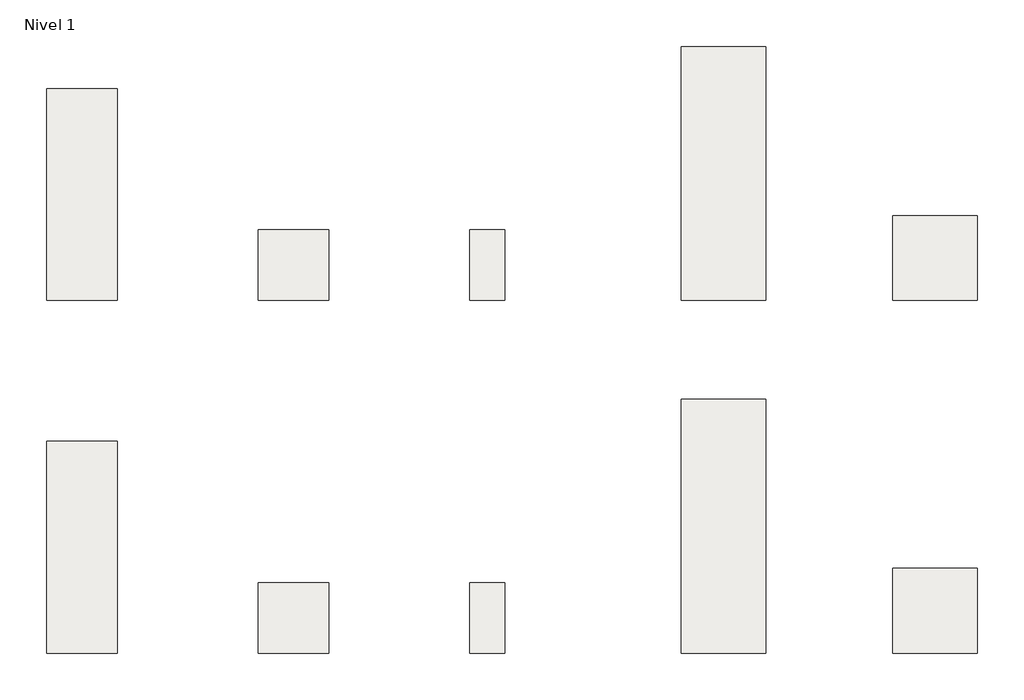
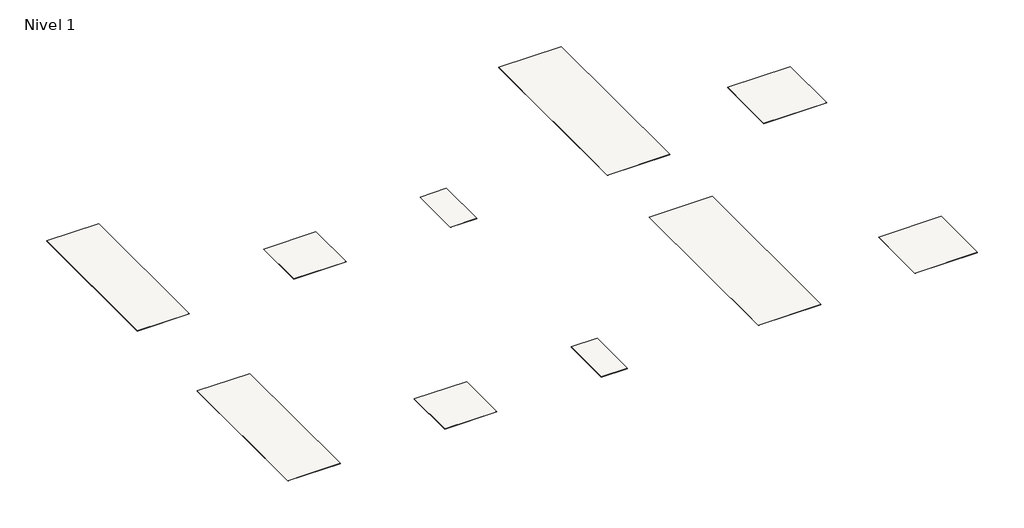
# One storey: 10 slabs.
"""IFC4 building model written with IfcOpenShell, lengths in millimetres."""

import ifcopenshell
import ifcopenshell.guid

model = None  # the IFC model being written
_history = None  # IfcOwnerHistory: only IFC2X3 demands one
_inside = {}  # id of a spatial element -> (the spatial element, [elements in it])
_under = {}  # id of a project, library or spatial element -> (it, [spatial elements below it])
_declared = {}  # id of a project -> (the project, [libraries it declares])
_typed = {}  # id of a type object -> (the type object, [elements of that type])
_made_of = {}  # id of a material, layer set ... -> (it, [elements and type objects made of it])


def new_model(schema):
    """Start an empty IFC model of exactly this schema.

    Asked for "IFC4X3", IfcOpenShell would pick the latest addendum, in which some entities
    have other attributes; the version numbers below select the first issue.
    IFC2X3 requires an IfcOwnerHistory on every rooted entity: one is made here for all.
    """
    global model, _history
    if schema == "IFC4X3":
        model = ifcopenshell.file(schema_version=(4, 3, 0, 0))
    else:
        model = ifcopenshell.file(schema=schema)
    _inside.clear()
    _under.clear()
    _declared.clear()
    _typed.clear()
    _made_of.clear()
    _history = None
    if model.schema == "IFC2X3":
        org = make("IfcOrganization", Name="unknown")
        user = make(
            "IfcPersonAndOrganization",
            ThePerson=make("IfcPerson", FamilyName="unknown"),
            TheOrganization=org,
        )
        app = make(
            "IfcApplication",
            ApplicationDeveloper=org,
            Version="unknown",
            ApplicationFullName="unknown",
            ApplicationIdentifier="unknown",
        )
        _history = make(
            "IfcOwnerHistory",
            OwningUser=user,
            OwningApplication=app,
            ChangeAction="ADDED",
            CreationDate=0,
        )
    return model


def make(cls, **values):
    """One entity of the class cls with the attributes given. An attribute that is None is left unset."""
    return model.create_entity(
        cls, **{name: value for name, value in values.items() if value is not None}
    )


def rooted(cls, **values):
    """An entity with a GlobalId (a new one), such as an element, a storey or a relation."""
    return make(cls, GlobalId=ifcopenshell.guid.new(), OwnerHistory=_history, **values)


def si_unit(unit_type, name, prefix=None):
    """IfcSIUnit, for example si_unit("LENGTHUNIT", "METRE", prefix="MILLI")."""
    return make("IfcSIUnit", UnitType=unit_type, Prefix=prefix, Name=name)


def assignment(units):
    """IfcUnitAssignment: the units of a project."""
    return None if units is None else make("IfcUnitAssignment", Units=units)


def point(xyz):
    """IfcCartesianPoint."""
    return None if xyz is None else make("IfcCartesianPoint", Coordinates=xyz)


def direction(xyz):
    """IfcDirection."""
    return None if xyz is None else make("IfcDirection", DirectionRatios=xyz)


def frame(location, z_axis=None, x_axis=None):
    """IfcAxis2Placement3D, a coordinate frame: its origin and axes. An axis left out is left unset."""
    return make(
        "IfcAxis2Placement3D",
        Location=point(location),
        Axis=direction(z_axis),
        RefDirection=direction(x_axis),
    )


def origin():
    """The frame at (0, 0, 0) with its axes left unset."""
    return frame((0.0, 0.0, 0.0))


def place(relative_to, where):
    """IfcLocalPlacement: puts the frame where relative to a parent placement (None: the world)."""
    return make(
        "IfcLocalPlacement", PlacementRelTo=relative_to, RelativePlacement=where
    )


def context(
    kind, dimensions, precision=None, world=None, true_north=None, identifier=None
):
    """IfcGeometricRepresentationContext, for example the 3D "Model" context."""
    return make(
        "IfcGeometricRepresentationContext",
        ContextIdentifier=identifier,
        ContextType=kind,
        CoordinateSpaceDimension=dimensions,
        Precision=precision,
        WorldCoordinateSystem=world,
        TrueNorth=true_north,
    )


def project(units=None, contexts=None):
    """IfcProject with its units and contexts."""
    return rooted(
        "IfcProject",
        Name="project",
        RepresentationContexts=contexts,
        UnitsInContext=assignment(units),
    )


def spatial(cls, under=None, at=None, **own):
    """A site, building, storey or space (cls), placed at a placement, below another one or the project."""
    s = rooted(cls, ObjectPlacement=at, **own)
    if under is not None:
        _under.setdefault(under.id(), (under, []))[1].append(s)
    return s


def polyline(points):
    """IfcPolyline through the points."""
    return make("IfcPolyline", Points=[point(p) for p in points])


def outline(outer, holes=None, kind="AREA"):
    """IfcArbitraryClosedProfileDef: a profile drawn as a closed curve; with holes, ...WithVoids."""
    if holes is None:
        return make("IfcArbitraryClosedProfileDef", ProfileType=kind, OuterCurve=outer)
    return make(
        "IfcArbitraryProfileDefWithVoids",
        ProfileType=kind,
        OuterCurve=outer,
        InnerCurves=holes,
    )


def extrude(swept, where, along, depth):
    """IfcExtrudedAreaSolid: the profile swept, set in the frame where, extruded along a direction by depth."""
    return make(
        "IfcExtrudedAreaSolid",
        SweptArea=swept,
        Position=where,
        ExtrudedDirection=direction(along),
        Depth=depth,
    )


def shape(context_of_items, identifier, shape_type, items):
    """IfcShapeRepresentation: the items that make up one representation, for example the "Body"."""
    return make(
        "IfcShapeRepresentation",
        ContextOfItems=context_of_items,
        RepresentationIdentifier=identifier,
        RepresentationType=shape_type,
        Items=items,
    )


def made_of(thing, what):
    """Note that an element or type object is made of a material, layer set ...; save() writes the relation."""
    if what is not None:
        _made_of.setdefault(what.id(), (what, []))[1].append(thing)
    return thing


def element(
    cls,
    number,
    at=None,
    inside=None,
    cuts=None,
    type_object=None,
    material=None,
    context=None,
    identifier="Body",
    shape_type=None,
    held_by="IfcProductDefinitionShape",
    body=None,
    shapes=None,
    **own,
):
    """One element of the class cls, such as IfcWall. Its Tag is "e" and its number.

    at: its placement. inside: the storey or other place that contains it. cuts: it is an
    opening in that element (IfcRelVoidsElement). A single representation is given by context,
    identifier, shape_type and body (its items); several are given by shapes. held_by: the class
    of the entity that holds the representations. save() writes the other relations.
    """
    e = rooted(cls, Tag="e%d" % number, ObjectPlacement=at, **own)
    if body is not None:
        shapes = [shape(context, identifier, shape_type, body)]
    if shapes is not None:
        e.Representation = make(held_by, Representations=shapes)
    if inside is not None:
        _inside.setdefault(inside.id(), (inside, []))[1].append(e)
    if cuts is not None:
        rooted(
            "IfcRelVoidsElement", RelatingBuildingElement=cuts, RelatedOpeningElement=e
        )
    if type_object is not None:
        _typed.setdefault(type_object.id(), (type_object, []))[1].append(e)
    return made_of(e, material)


def aggregate(whole, parts):
    """IfcRelAggregates: a whole, such as a stair, and the parts it consists of."""
    return rooted("IfcRelAggregates", RelatingObject=whole, RelatedObjects=parts)


def save(model, path):
    """Write the relations noted so far, then the file.

    IfcRelAggregates (storeys below a building ...), IfcRelContainedInSpatialStructure (elements
    in a storey), IfcRelDefinesByType, IfcRelAssociatesMaterial and IfcRelDeclares: one each for
    every whole, place, type object, material and project.
    """
    for whole, parts in _under.values():
        aggregate(whole, parts)
    for where, things in _inside.values():
        rooted(
            "IfcRelContainedInSpatialStructure",
            RelatedElements=things,
            RelatingStructure=where,
        )
    for kind, things in _typed.values():
        rooted("IfcRelDefinesByType", RelatedObjects=things, RelatingType=kind)
    for what, things in _made_of.values():
        rooted("IfcRelAssociatesMaterial", RelatedObjects=things, RelatingMaterial=what)
    for by, libraries in _declared.values():
        rooted("IfcRelDeclares", RelatingContext=by, RelatedDefinitions=libraries)
    model.write(path)


model = new_model("IFC4")

# Units and contexts
model_context = context("Model", 3, world=origin())
ifc_project = project(units=[si_unit("LENGTHUNIT", "METRE", prefix="MILLI")], contexts=[model_context])

# Site, building, storey
site = spatial("IfcSite", under=ifc_project)
building = spatial("IfcBuilding", under=site)
storey = spatial("IfcBuildingStorey", under=building, Name="Nivel 1", Elevation=0.0)

# Slabs
placement = place(None, origin())
element("IfcSlab", 1, ObjectType="Blue Stone Gris 100X100 5,6", at=placement, inside=storey, context=model_context, shape_type="SweptSolid", body=[
    extrude(outline(polyline([(3000.0, 1000.0), (4000.0, 1000.0), (4000.0, 0.0), (3000.0, 0.0), (3000.0, 1000.0)])), frame((0.0, 0.0, -5.6), z_axis=(0.0, 0.0, 1.0), x_axis=(1.0, 0.0, 0.0)), (0.0, 0.0, 1.0), 5.6),
])
element("IfcSlab", 2, ObjectType="Blue Stone Gris 100X300 5,6", at=placement, inside=storey, context=model_context, shape_type="SweptSolid", body=[
    extrude(outline(polyline([(0.0, 3000.0), (1000.0, 3000.0), (1000.0, 0.0), (0.0, 0.0), (0.0, 3000.0)])), frame((0.0, 0.0, -5.6), z_axis=(0.0, 0.0, 1.0), x_axis=(1.0, 0.0, 0.0)), (0.0, 0.0, 1.0), 5.6),
])
element("IfcSlab", 3, ObjectType="Blue Stone Gris 120X120 5,6", at=placement, inside=storey, context=model_context, shape_type="SweptSolid", body=[
    extrude(outline(polyline([(12000.0, 1200.0), (13200.0, 1200.0), (13200.0, 0.0), (12000.0, 0.0), (12000.0, 1200.0)])), frame((0.0, 0.0, -5.6), z_axis=(0.0, 0.0, 1.0), x_axis=(1.0, 0.0, 0.0)), (0.0, 0.0, 1.0), 5.6),
])
element("IfcSlab", 4, ObjectType="Blue Stone Gris 120X360 5,6", at=placement, inside=storey, context=model_context, shape_type="SweptSolid", body=[
    extrude(outline(polyline([(9000.0, 3600.0), (10200.0, 3600.0), (10200.0, 0.0), (9000.0, 0.0), (9000.0, 3600.0)])), frame((0.0, 0.0, -5.6), z_axis=(0.0, 0.0, 1.0), x_axis=(1.0, 0.0, 0.0)), (0.0, 0.0, 1.0), 5.6),
])
element("IfcSlab", 5, ObjectType="Blue Stone Gris 50X100 5,6", at=placement, inside=storey, context=model_context, shape_type="SweptSolid", body=[
    extrude(outline(polyline([(6000.0, 1000.0), (6500.0, 1000.0), (6500.0, 0.0), (6000.0, 0.0), (6000.0, 1000.0)])), frame((0.0, 0.0, -5.6), z_axis=(0.0, 0.0, 1.0), x_axis=(1.0, 0.0, 0.0)), (0.0, 0.0, 1.0), 5.6),
])
element("IfcSlab", 6, ObjectType="Blue Stone Negro 100X100 5,6", at=placement, inside=storey, context=model_context, shape_type="SweptSolid", body=[
    extrude(outline(polyline([(3000.0, -4000.0), (4000.0, -4000.0), (4000.0, -5000.0), (3000.0, -5000.0), (3000.0, -4000.0)])), frame((0.0, 0.0, -5.6), z_axis=(0.0, 0.0, 1.0), x_axis=(1.0, 0.0, 0.0)), (0.0, 0.0, 1.0), 5.6),
])
element("IfcSlab", 7, ObjectType="Blue Stone Negro 100X300 5,6", at=placement, inside=storey, context=model_context, shape_type="SweptSolid", body=[
    extrude(outline(polyline([(0.0, -2000.0), (1000.0, -2000.0), (1000.0, -5000.0), (0.0, -5000.0), (0.0, -2000.0)])), frame((0.0, 0.0, -5.6), z_axis=(0.0, 0.0, 1.0), x_axis=(1.0, 0.0, 0.0)), (0.0, 0.0, 1.0), 5.6),
])
element("IfcSlab", 8, ObjectType="Blue Stone Negro 120X120 5,6", at=placement, inside=storey, context=model_context, shape_type="SweptSolid", body=[
    extrude(outline(polyline([(12000.0, -3800.0), (13200.0, -3800.0), (13200.0, -5000.0), (12000.0, -5000.0), (12000.0, -3800.0)])), frame((0.0, 0.0, -5.6), z_axis=(0.0, 0.0, 1.0), x_axis=(1.0, 0.0, 0.0)), (0.0, 0.0, 1.0), 5.6),
])
element("IfcSlab", 9, ObjectType="Blue Stone Negro 120X360 5,6", at=placement, inside=storey, context=model_context, shape_type="SweptSolid", body=[
    extrude(outline(polyline([(9000.0, -1400.0), (10200.0, -1400.0), (10200.0, -5000.0), (9000.0, -5000.0), (9000.0, -1400.0)])), frame((0.0, 0.0, -5.6), z_axis=(0.0, 0.0, 1.0), x_axis=(1.0, 0.0, 0.0)), (0.0, 0.0, 1.0), 5.6),
])
element("IfcSlab", 10, ObjectType="Blue Stone Negro 50X100 5,6", at=placement, inside=storey, context=model_context, shape_type="SweptSolid", body=[
    extrude(outline(polyline([(6000.0, -4000.0), (6500.0, -4000.0), (6500.0, -5000.0), (6000.0, -5000.0), (6000.0, -4000.0)])), frame((0.0, 0.0, -5.6), z_axis=(0.0, 0.0, 1.0), x_axis=(1.0, 0.0, 0.0)), (0.0, 0.0, 1.0), 5.6),
])

save(model, "model.ifc")
